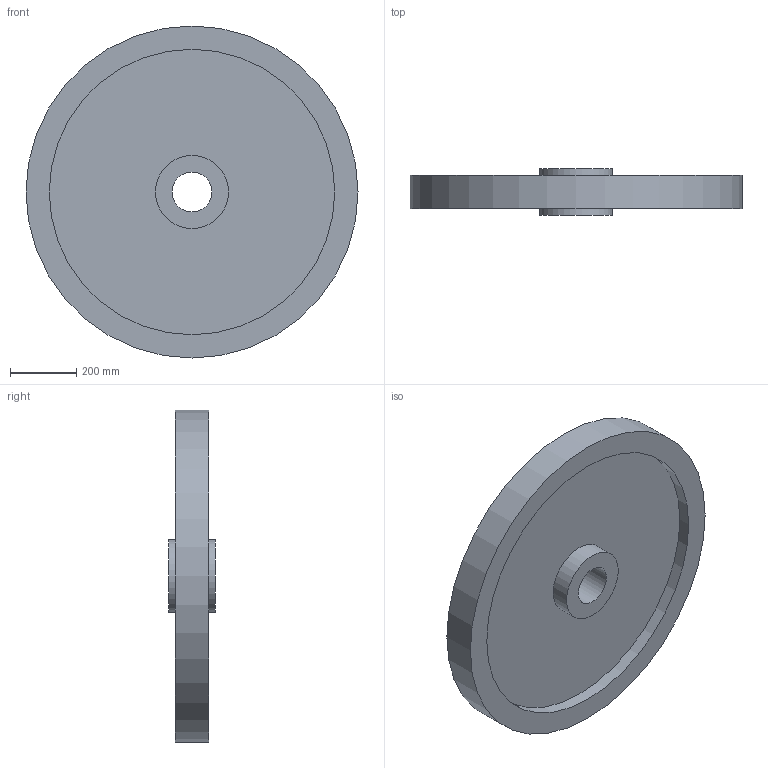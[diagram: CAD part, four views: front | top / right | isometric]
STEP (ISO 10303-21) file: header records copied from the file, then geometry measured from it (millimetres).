
FILE_DESCRIPTION(('Open CASCADE Model'),'2;1');
FILE_NAME('Open CASCADE Shape Model','2026-10-19T10:06:07',('Author'),( 'Open CASCADE'),'Open CASCADE STEP processor 7.8','Open CASCADE 7.8' ,'Unknown');
FILE_SCHEMA(('AUTOMOTIVE_DESIGN { 1 0 10303 214 1 1 1 1 }'));
Length unit declared in the file: millimetre
Products named in the file (1): Open CASCADE STEP translator 7.8 12
Bounding box: 1000 x 140 x 1000 mm (x, y, z)
Volume: 37761943.7 mm3; surface area: 2197229.9 mm2
Topology: 1 solids, 1 shells, 12 faces, 18 edges, 12 vertices
Faces by surface type: cylinder 6, plane 6
Full cylindrical faces by diameter (mm): 120 x1, 220 x2, 860 x2, 1000 x1
Entity records: 522 total; most frequent: DIRECTION 92, CARTESIAN_POINT 79, ORIENTED_EDGE 36, PCURVE 36, DEFINITIONAL_REPRESENTATION 36, LINE 30, VECTOR 30, AXIS2_PLACEMENT_3D 25
